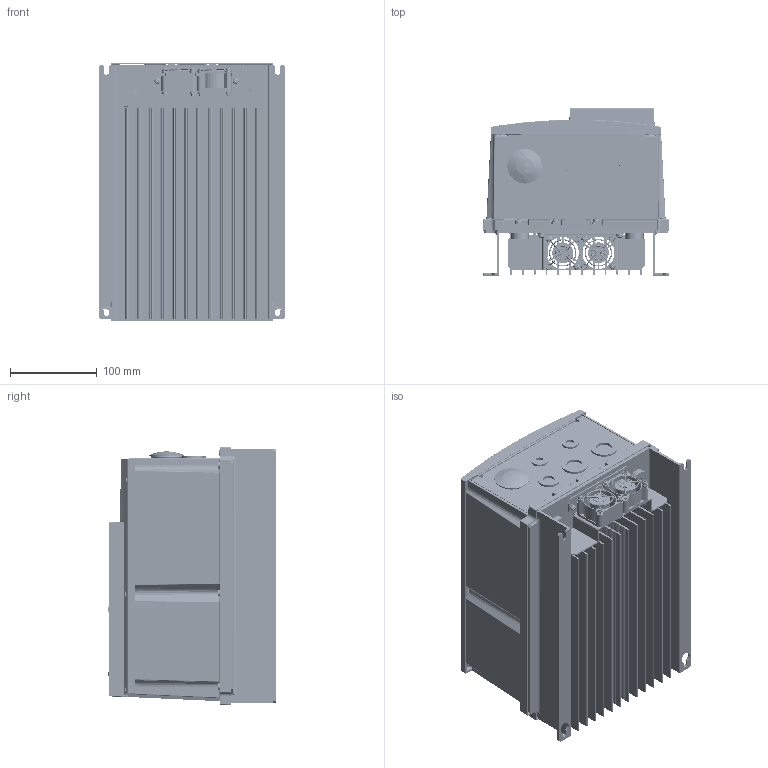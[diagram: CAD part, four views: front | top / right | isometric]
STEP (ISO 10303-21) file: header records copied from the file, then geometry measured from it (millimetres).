
FILE_DESCRIPTION(('STEP AP242'),'1');
FILE_NAME('atv212wu15n4c.stp','2021-09-28T10:55:16',('TraceParts'),('TraceParts S.A.'),'Spatial InterOp 3D',' ',' ');
FILE_SCHEMA(('AP242_MANAGED_MODEL_BASED_3D_ENGINEERING_MIM_LF {1 0 10303 442 1 1 4}'));
Length unit declared in the file: millimetre
Products named in the file (1): atv212wu15n4c_1
Bounding box: 215 x 192.8 x 296.98 mm (x, y, z)
Volume: 1796265.7 mm3; surface area: 1115966.8 mm2
Topology: 64 solids, 64 shells, 7261 faces, 18884 edges, 12017 vertices
Faces by surface type: plane 3545, cylinder 2040, cone 584, bspline 452, torus 394, sphere 223, extrusion 23
Entity records: 248506 total; most frequent: CARTESIAN_POINT 71769, ORIENTED_EDGE 37666, DIRECTION 35995, EDGE_CURVE 18833, AXIS2_PLACEMENT_3D 12554, VERTEX_POINT 12017, VECTOR 10887, LINE 10864
